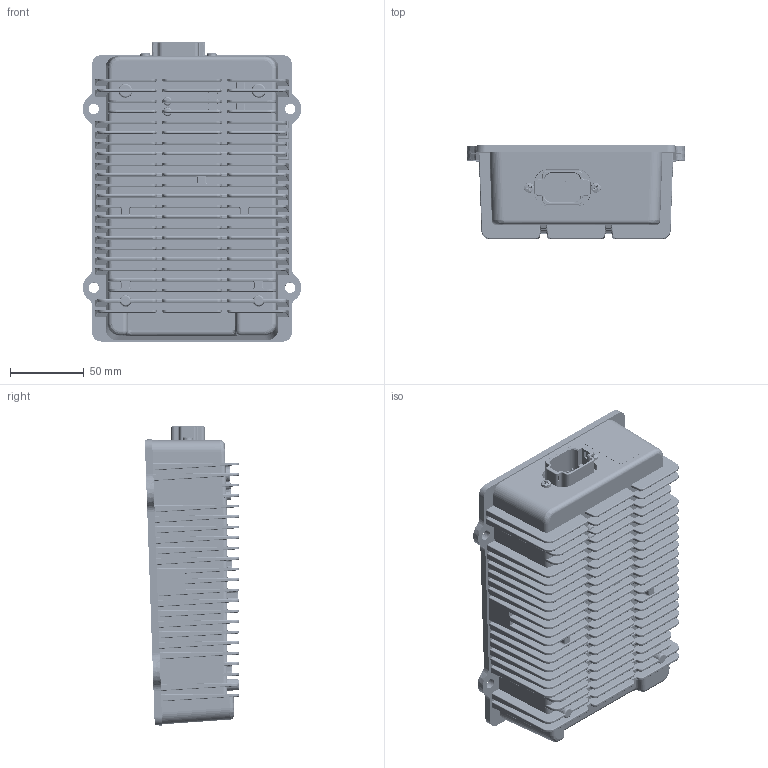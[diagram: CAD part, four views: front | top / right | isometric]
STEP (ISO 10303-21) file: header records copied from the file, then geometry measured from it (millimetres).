
FILE_DESCRIPTION (( 'STEP AP214' ), '1' );
FILE_NAME ('FG-AX082210-01-P2.pdf.STEP', '2026-04-28T22:44:43', ( '' ), ( '' ), 'SwSTEP 2.0', 'SolidWorks 2023', '' );
FILE_SCHEMA (( 'AUTOMOTIVE_DESIGN' ));
Length unit declared in the file: inch
Products named in the file (25): GAS-12019-01-R2; S20K75; RTV; CTP-25012-01-R1; PL-6-19X625SSPPU; E-RTV-3145-CLR-305; 680UF-63VE-20%-KZE; PL-4-20X375SSPPU; RTV2; MS-M4CX6SSPPU; MGP-12019-04-A; 1000UF-35VE-20%-KZE; MS-M5CX12SSPFU; CTP-12019-02-R1; E-SC-309; MGP-19017-01-A; LBM-SERIAL-01-R3; DEUT DT13-08PA; SMT-25012-01; 2K POT; FG-AX082210-01-P2.pdf; MGP-25012-01-A; MGP-13006-02-A; DEUT DT13-08PA-GAS; LBM-AX082210-01-R1
Assembly tree (54 placements, depth 2):
  FG-AX082210-01-P2.pdf
    SMT-25012-01
    2K POT
    680UF-63VE-20%-KZE  x3
    MGP-25012-01-A  x2
    MGP-13006-02-A  x2
    MGP-12019-04-A  x2
    1000UF-35VE-20%-KZE  x3
    MGP-19017-01-A  x2
    DEUT DT13-08PA
    DEUT DT13-08PA-GAS
    CTP-25012-01-R1
    PL-6-19X625SSPPU  x2
    MS-M4CX6SSPPU  x3
    E-RTV-3145-CLR-305  x7
    PL-4-20X375SSPPU  x3
    S20K75
    RTV
    GAS-12019-01-R2
    CTP-12019-02-R1
    E-SC-309
    MS-M5CX12SSPFU  x6
    LBM-SERIAL-01-R3  x2
    RTV2  x6
    LBM-AX082210-01-R1
Bounding box: 147.93 x 63.95 x 202.44 mm (x, y, z)
Volume: 586667.3 mm3; surface area: 429187.9 mm2
Topology: 65 solids, 1957 shells, 16222 faces, 49180 edges, 34587 vertices
Faces by surface type: plane 6670, cylinder 5896, torus 1812, bspline 1178, cone 549, sphere 117
Entity records: 672855 total; most frequent: CARTESIAN_POINT 215177, DIRECTION 67251, ORIENTED_EDGE 66534, EDGE_CURVE 41615, VERTEX_POINT 30142, LINE 26655, VECTOR 26655, AXIS2_PLACEMENT_3D 20298
